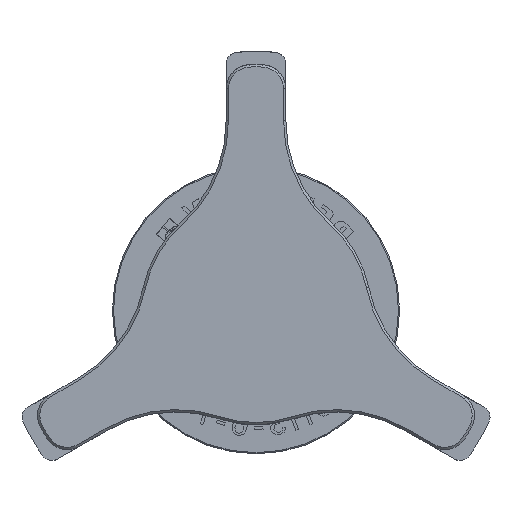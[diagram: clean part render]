
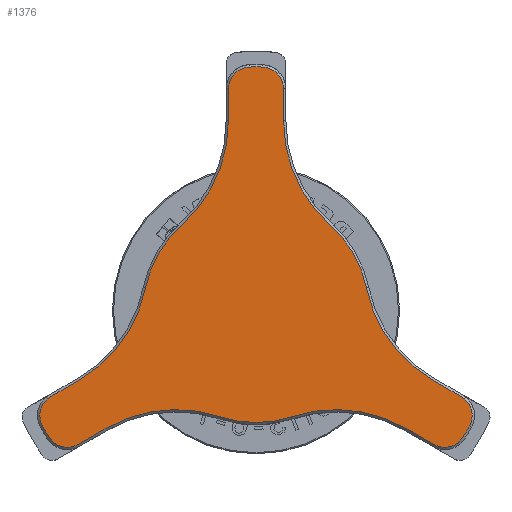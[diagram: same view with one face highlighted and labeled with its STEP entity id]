
A CAD part, top view. The second image highlights one B-rep face of the part: STEP entity #1376.
In plain terms, the highlighted planar face has unit normal (0, 0, 1).
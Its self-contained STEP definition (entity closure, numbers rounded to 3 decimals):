
#1174=PLANE('',#4278);
#1376=ADVANCED_FACE('',(#1586),#1174,.T.);
#1586=FACE_OUTER_BOUND('',#1697,.T.);
#1697=EDGE_LOOP('',(#2336,#2337,#2338,#2339,#2340,#2341,#2342,#2343,#2344,
#2345,#2346,#2347,#2348,#2349,#2350,#2351,#2352,#2353,#2354,#2355,#2356,
#2357,#2358,#2359));
#1953=CIRCLE('',#4260,1.9);
#1954=CIRCLE('',#4261,21.15);
#1955=CIRCLE('',#4262,1.9);
#1956=CIRCLE('',#4263,12.2);
#1957=CIRCLE('',#4264,9.8);
#1958=CIRCLE('',#4265,12.2);
#1959=CIRCLE('',#4266,1.9);
#1960=CIRCLE('',#4267,21.15);
#1961=CIRCLE('',#4268,1.9);
#1962=CIRCLE('',#4269,12.2);
#1963=CIRCLE('',#4270,9.8);
#1964=CIRCLE('',#4271,12.2);
#1965=CIRCLE('',#4272,1.9);
#1966=CIRCLE('',#4273,21.15);
#1967=CIRCLE('',#4274,1.9);
#1968=CIRCLE('',#4275,12.2);
#1969=CIRCLE('',#4276,9.8);
#1970=CIRCLE('',#4277,12.2);
#2336=ORIENTED_EDGE('',*,*,#3615,.T.);
#2337=ORIENTED_EDGE('',*,*,#3616,.T.);
#2338=ORIENTED_EDGE('',*,*,#3617,.T.);
#2339=ORIENTED_EDGE('',*,*,#3618,.T.);
#2340=ORIENTED_EDGE('',*,*,#3619,.T.);
#2341=ORIENTED_EDGE('',*,*,#3620,.T.);
#2342=ORIENTED_EDGE('',*,*,#3621,.T.);
#2343=ORIENTED_EDGE('',*,*,#3622,.T.);
#2344=ORIENTED_EDGE('',*,*,#3623,.T.);
#2345=ORIENTED_EDGE('',*,*,#3624,.T.);
#2346=ORIENTED_EDGE('',*,*,#3625,.T.);
#2347=ORIENTED_EDGE('',*,*,#3626,.T.);
#2348=ORIENTED_EDGE('',*,*,#3627,.T.);
#2349=ORIENTED_EDGE('',*,*,#3628,.T.);
#2350=ORIENTED_EDGE('',*,*,#3629,.T.);
#2351=ORIENTED_EDGE('',*,*,#3630,.T.);
#2352=ORIENTED_EDGE('',*,*,#3631,.T.);
#2353=ORIENTED_EDGE('',*,*,#3632,.T.);
#2354=ORIENTED_EDGE('',*,*,#3633,.T.);
#2355=ORIENTED_EDGE('',*,*,#3634,.T.);
#2356=ORIENTED_EDGE('',*,*,#3635,.T.);
#2357=ORIENTED_EDGE('',*,*,#3636,.T.);
#2358=ORIENTED_EDGE('',*,*,#3637,.T.);
#2359=ORIENTED_EDGE('',*,*,#3638,.T.);
#3234=VERTEX_POINT('',#5368);
#3235=VERTEX_POINT('',#5369);
#3236=VERTEX_POINT('',#5371);
#3237=VERTEX_POINT('',#5373);
#3238=VERTEX_POINT('',#5375);
#3239=VERTEX_POINT('',#5377);
#3240=VERTEX_POINT('',#5379);
#3241=VERTEX_POINT('',#5381);
#3242=VERTEX_POINT('',#5383);
#3243=VERTEX_POINT('',#5385);
#3244=VERTEX_POINT('',#5387);
#3245=VERTEX_POINT('',#5389);
#3246=VERTEX_POINT('',#5391);
#3247=VERTEX_POINT('',#5393);
#3248=VERTEX_POINT('',#5395);
#3249=VERTEX_POINT('',#5397);
#3250=VERTEX_POINT('',#5399);
#3251=VERTEX_POINT('',#5401);
#3252=VERTEX_POINT('',#5403);
#3253=VERTEX_POINT('',#5405);
#3254=VERTEX_POINT('',#5407);
#3255=VERTEX_POINT('',#5409);
#3256=VERTEX_POINT('',#5411);
#3257=VERTEX_POINT('',#5413);
#3615=EDGE_CURVE('',#3234,#3235,#4029,.T.);
#3616=EDGE_CURVE('',#3235,#3236,#1953,.T.);
#3617=EDGE_CURVE('',#3236,#3237,#1954,.T.);
#3618=EDGE_CURVE('',#3237,#3238,#1955,.T.);
#3619=EDGE_CURVE('',#3238,#3239,#4030,.T.);
#3620=EDGE_CURVE('',#3239,#3240,#1956,.T.);
#3621=EDGE_CURVE('',#3240,#3241,#1957,.T.);
#3622=EDGE_CURVE('',#3241,#3242,#1958,.T.);
#3623=EDGE_CURVE('',#3242,#3243,#4031,.T.);
#3624=EDGE_CURVE('',#3243,#3244,#1959,.T.);
#3625=EDGE_CURVE('',#3244,#3245,#1960,.T.);
#3626=EDGE_CURVE('',#3245,#3246,#1961,.T.);
#3627=EDGE_CURVE('',#3246,#3247,#4032,.T.);
#3628=EDGE_CURVE('',#3247,#3248,#1962,.T.);
#3629=EDGE_CURVE('',#3248,#3249,#1963,.T.);
#3630=EDGE_CURVE('',#3249,#3250,#1964,.T.);
#3631=EDGE_CURVE('',#3250,#3251,#4033,.T.);
#3632=EDGE_CURVE('',#3251,#3252,#1965,.T.);
#3633=EDGE_CURVE('',#3252,#3253,#1966,.T.);
#3634=EDGE_CURVE('',#3253,#3254,#1967,.T.);
#3635=EDGE_CURVE('',#3254,#3255,#4034,.T.);
#3636=EDGE_CURVE('',#3255,#3256,#1968,.T.);
#3637=EDGE_CURVE('',#3256,#3257,#1969,.T.);
#3638=EDGE_CURVE('',#3257,#3234,#1970,.T.);
#4029=LINE('',#5367,#4136);
#4030=LINE('',#5376,#4137);
#4031=LINE('',#5384,#4138);
#4032=LINE('',#5392,#4139);
#4033=LINE('',#5400,#4140);
#4034=LINE('',#5408,#4141);
#4136=VECTOR('',#4609,1.);
#4137=VECTOR('',#4616,1.);
#4138=VECTOR('',#4623,1.);
#4139=VECTOR('',#4630,1.);
#4140=VECTOR('',#4637,1.);
#4141=VECTOR('',#4644,1.);
#4260=AXIS2_PLACEMENT_3D('',#5370,#4610,#4611);
#4261=AXIS2_PLACEMENT_3D('',#5372,#4612,#4613);
#4262=AXIS2_PLACEMENT_3D('',#5374,#4614,#4615);
#4263=AXIS2_PLACEMENT_3D('',#5378,#4617,#4618);
#4264=AXIS2_PLACEMENT_3D('',#5380,#4619,#4620);
#4265=AXIS2_PLACEMENT_3D('',#5382,#4621,#4622);
#4266=AXIS2_PLACEMENT_3D('',#5386,#4624,#4625);
#4267=AXIS2_PLACEMENT_3D('',#5388,#4626,#4627);
#4268=AXIS2_PLACEMENT_3D('',#5390,#4628,#4629);
#4269=AXIS2_PLACEMENT_3D('',#5394,#4631,#4632);
#4270=AXIS2_PLACEMENT_3D('',#5396,#4633,#4634);
#4271=AXIS2_PLACEMENT_3D('',#5398,#4635,#4636);
#4272=AXIS2_PLACEMENT_3D('',#5402,#4638,#4639);
#4273=AXIS2_PLACEMENT_3D('',#5404,#4640,#4641);
#4274=AXIS2_PLACEMENT_3D('',#5406,#4642,#4643);
#4275=AXIS2_PLACEMENT_3D('',#5410,#4645,#4646);
#4276=AXIS2_PLACEMENT_3D('',#5412,#4647,#4648);
#4277=AXIS2_PLACEMENT_3D('',#5414,#4649,#4650);
#4278=AXIS2_PLACEMENT_3D('',#5415,#4651,#4652);
#4609=DIRECTION('',(-0.866,-0.5,0.));
#4610=DIRECTION('',(0.,0.,1.));
#4611=DIRECTION('',(0.,-1.,0.));
#4612=DIRECTION('',(0.,0.,1.));
#4613=DIRECTION('',(0.,-1.,0.));
#4614=DIRECTION('',(0.,0.,1.));
#4615=DIRECTION('',(0.,-1.,0.));
#4616=DIRECTION('',(0.866,0.5,0.));
#4617=DIRECTION('',(0.,0.,-1.));
#4618=DIRECTION('',(0.,-1.,0.));
#4619=DIRECTION('',(0.,0.,1.));
#4620=DIRECTION('',(0.,-1.,0.));
#4621=DIRECTION('',(0.,0.,-1.));
#4622=DIRECTION('',(0.,-1.,0.));
#4623=DIRECTION('',(0.866,-0.5,0.));
#4624=DIRECTION('',(0.,0.,1.));
#4625=DIRECTION('',(0.,-1.,0.));
#4626=DIRECTION('',(0.,0.,1.));
#4627=DIRECTION('',(0.,-1.,0.));
#4628=DIRECTION('',(0.,0.,1.));
#4629=DIRECTION('',(0.,-1.,0.));
#4630=DIRECTION('',(-0.866,0.5,0.));
#4631=DIRECTION('',(0.,0.,-1.));
#4632=DIRECTION('',(0.,-1.,0.));
#4633=DIRECTION('',(0.,0.,1.));
#4634=DIRECTION('',(0.,-1.,0.));
#4635=DIRECTION('',(0.,0.,-1.));
#4636=DIRECTION('',(0.,-1.,0.));
#4637=DIRECTION('',(0.,1.,0.));
#4638=DIRECTION('',(0.,0.,1.));
#4639=DIRECTION('',(0.,-1.,0.));
#4640=DIRECTION('',(0.,0.,1.));
#4641=DIRECTION('',(0.,-1.,0.));
#4642=DIRECTION('',(0.,0.,1.));
#4643=DIRECTION('',(0.,-1.,0.));
#4644=DIRECTION('',(0.,-1.,0.));
#4645=DIRECTION('',(0.,0.,-1.));
#4646=DIRECTION('',(0.,-1.,0.));
#4647=DIRECTION('',(0.,0.,1.));
#4648=DIRECTION('',(0.,-1.,0.));
#4649=DIRECTION('',(0.,0.,-1.));
#4650=DIRECTION('',(0.,-1.,0.));
#4651=DIRECTION('',(0.,0.,1.));
#4652=DIRECTION('',(0.,-1.,0.));
#5367=CARTESIAN_POINT('',(-17.865,-7.543,0.3));
#5368=CARTESIAN_POINT('',(-15.452,-6.15,0.3));
#5369=CARTESIAN_POINT('',(-17.865,-7.543,0.3));
#5370=CARTESIAN_POINT('',(-16.915,-9.189,0.3));
#5371=CARTESIAN_POINT('',(-18.585,-10.096,0.3));
#5372=CARTESIAN_POINT('',(0.,0.,0.3));
#5373=CARTESIAN_POINT('',(-18.036,-11.047,0.3));
#5374=CARTESIAN_POINT('',(-16.415,-10.055,0.3));
#5375=CARTESIAN_POINT('',(-15.465,-11.7,0.3));
#5376=CARTESIAN_POINT('',(1.2,-2.078,0.3));
#5377=CARTESIAN_POINT('',(-13.052,-10.307,0.3));
#5378=CARTESIAN_POINT('',(-6.952,-20.873,0.3));
#5379=CARTESIAN_POINT('',(-3.097,-9.298,0.3));
#5380=CARTESIAN_POINT('',(0.,0.,0.3));
#5381=CARTESIAN_POINT('',(3.097,-9.298,0.3));
#5382=CARTESIAN_POINT('',(6.952,-20.873,0.3));
#5383=CARTESIAN_POINT('',(13.052,-10.307,0.3));
#5384=CARTESIAN_POINT('',(-1.2,-2.078,0.3));
#5385=CARTESIAN_POINT('',(15.465,-11.7,0.3));
#5386=CARTESIAN_POINT('',(16.415,-10.055,0.3));
#5387=CARTESIAN_POINT('',(18.036,-11.047,0.3));
#5388=CARTESIAN_POINT('',(0.,0.,0.3));
#5389=CARTESIAN_POINT('',(18.585,-10.096,0.3));
#5390=CARTESIAN_POINT('',(16.915,-9.189,0.3));
#5391=CARTESIAN_POINT('',(17.865,-7.543,0.3));
#5392=CARTESIAN_POINT('',(15.452,-6.15,0.3));
#5393=CARTESIAN_POINT('',(15.452,-6.15,0.3));
#5394=CARTESIAN_POINT('',(21.552,4.415,0.3));
#5395=CARTESIAN_POINT('',(9.601,1.967,0.3));
#5396=CARTESIAN_POINT('',(0.,0.,0.3));
#5397=CARTESIAN_POINT('',(6.504,7.331,0.3));
#5398=CARTESIAN_POINT('',(14.6,16.457,0.3));
#5399=CARTESIAN_POINT('',(2.4,16.457,0.3));
#5400=CARTESIAN_POINT('',(2.4,19.244,0.3));
#5401=CARTESIAN_POINT('',(2.4,19.244,0.3));
#5402=CARTESIAN_POINT('',(0.5,19.244,0.3));
#5403=CARTESIAN_POINT('',(0.549,21.143,0.3));
#5404=CARTESIAN_POINT('',(0.,0.,0.3));
#5405=CARTESIAN_POINT('',(-0.549,21.143,0.3));
#5406=CARTESIAN_POINT('',(-0.5,19.244,0.3));
#5407=CARTESIAN_POINT('',(-2.4,19.244,0.3));
#5408=CARTESIAN_POINT('',(-2.4,16.457,0.3));
#5409=CARTESIAN_POINT('',(-2.4,16.457,0.3));
#5410=CARTESIAN_POINT('',(-14.6,16.457,0.3));
#5411=CARTESIAN_POINT('',(-6.504,7.331,0.3));
#5412=CARTESIAN_POINT('',(0.,0.,0.3));
#5413=CARTESIAN_POINT('',(-9.601,1.967,0.3));
#5414=CARTESIAN_POINT('',(-21.552,4.415,0.3));
#5415=CARTESIAN_POINT('',(0.,0.,0.3));
